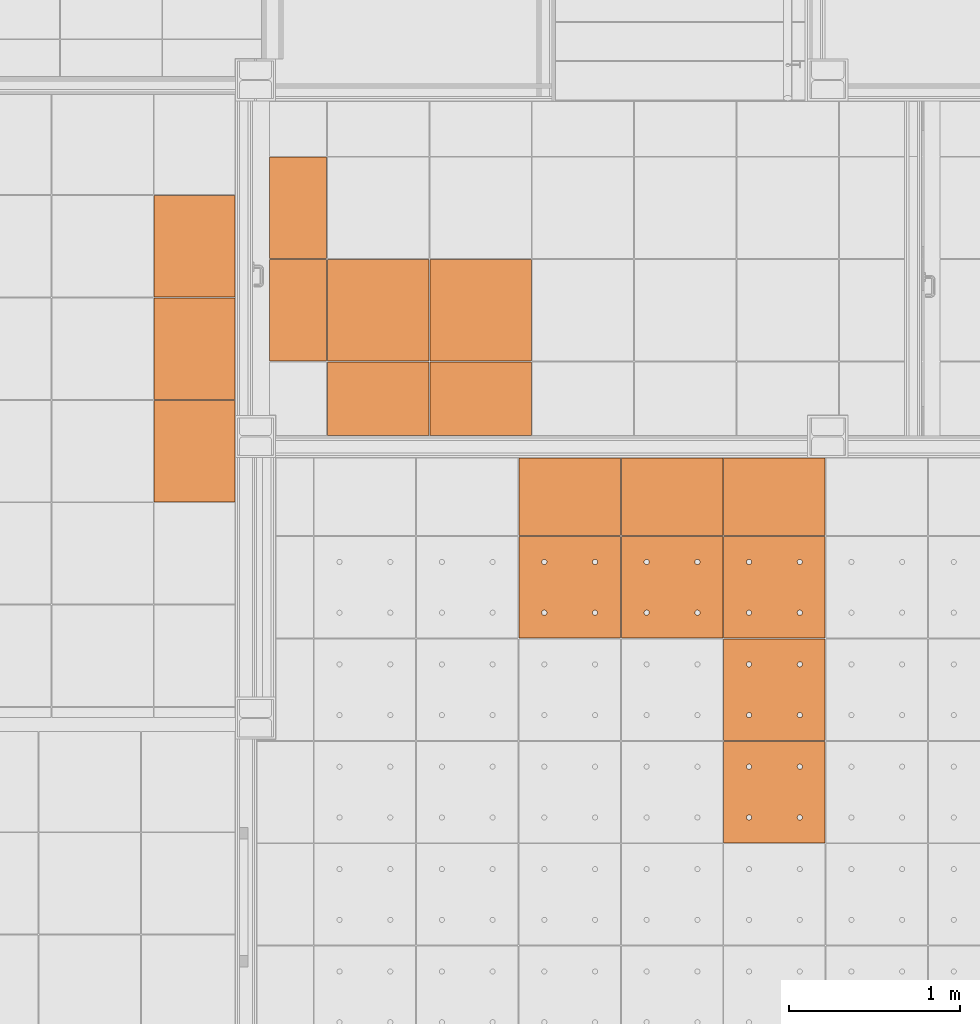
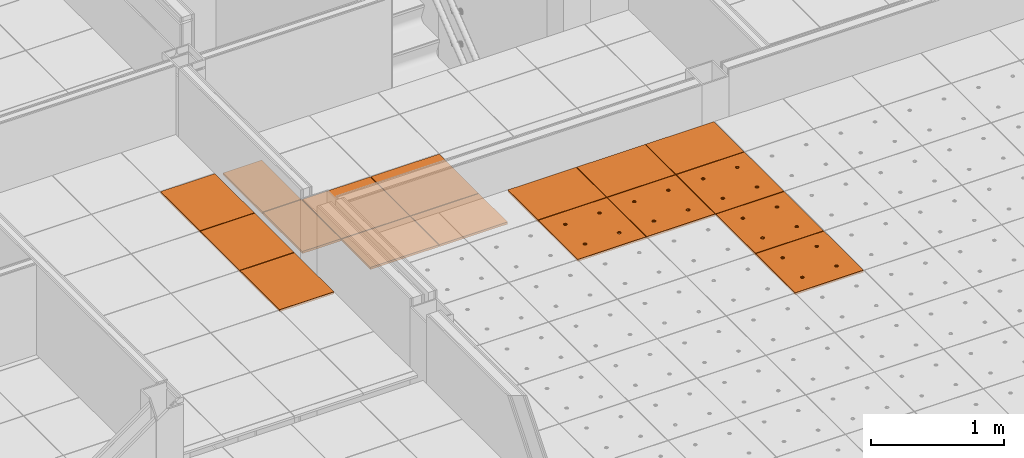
# One storey, part 259 of 338: 17 proxies, 3 elements without a shape of their own.
"""IFC2X3 building model written with IfcOpenShell, lengths in millimetres."""

from ifc_helpers import new_model, entity, si_unit, converted_unit, derived_unit, money_unit, direction, frame, origin_with_axes, place, context, subcontext, project, spatial, faceted_brep, source, transform, mapped, material, type_object, type_shapes, element, aggregate, save


model = new_model("IFC2X3")

# Units and contexts
model_context = context("Model", 3, precision=0.01, world=origin_with_axes(), true_north=direction((0.0, 1.0)))
plan_context = context("Plan", 3, precision=0.01, world=origin_with_axes(), true_north=direction((0.0, 1.0)))
body_context = subcontext(model_context, "Body", "Model", "MODEL_VIEW")
ifc_project = project(units=[si_unit("LENGTHUNIT", "METRE", prefix="MILLI"), si_unit("AREAUNIT", "SQUARE_METRE"), si_unit("VOLUMEUNIT", "CUBIC_METRE"), converted_unit("PLANEANGLEUNIT", "DEGREE", entity("IfcPlaneAngleMeasure", 0.0174532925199), si_unit("PLANEANGLEUNIT", "RADIAN"), dimensions=[0, 0, 0, 0, 0, 0, 0]), money_unit("EUR"), converted_unit("TIMEUNIT", "Year", entity("IfcTimeMeasure", 31556926.0), si_unit("TIMEUNIT", "SECOND"), dimensions=[0, 0, 1, 0, 0, 0, 0]), si_unit("MASSUNIT", "GRAM", prefix="KILO"), si_unit("THERMODYNAMICTEMPERATUREUNIT", "DEGREE_CELSIUS"), si_unit("LUMINOUSINTENSITYUNIT", "LUMEN"), si_unit("ENERGYUNIT", "JOULE", prefix="MEGA"), derived_unit("THERMALCONDUCTANCEUNIT", [(si_unit("POWERUNIT", "WATT"), 1), (si_unit("LENGTHUNIT", "METRE"), -1), (si_unit("THERMODYNAMICTEMPERATUREUNIT", "KELVIN"), -1)]), derived_unit("SPECIFICHEATCAPACITYUNIT", [(si_unit("ENERGYUNIT", "JOULE"), 1), (si_unit("MASSUNIT", "GRAM", prefix="KILO"), -1), (si_unit("THERMODYNAMICTEMPERATUREUNIT", "KELVIN"), -1)]), derived_unit("MASSDENSITYUNIT", [(si_unit("MASSUNIT", "GRAM", prefix="KILO"), 1), (si_unit("VOLUMEUNIT", "CUBIC_METRE"), -1)])], contexts=[model_context, plan_context])

# Site, building, storey
site_placement = place(None, origin_with_axes())
site = spatial("IfcSite", under=ifc_project, at=site_placement, Name="Fortuinstraat Woensdrecht", CompositionType="ELEMENT")
building_placement = place(site_placement, origin_with_axes())
building = spatial("IfcBuilding", under=site, at=building_placement, Name="IKC Fortuna", CompositionType="ELEMENT")
storey_placement = place(building_placement, origin_with_axes())
storey = spatial("IfcBuildingStorey", under=building, at=storey_placement, Name="00 begane grond", CompositionType="ELEMENT", Elevation=0.0)

# Covering, proxies
covering_type = type_object("IfcCoveringType", Name="Curtain Wall Type", PredefinedType="CEILING")
covering_1_placement = place(storey_placement, frame((28134.6600538, 19636.0305189, 2810.0), z_axis=(0.0, 0.0, 1.0), x_axis=(1.0, 0.0, 0.0)))
covering_1 = element("IfcCovering", 1, at=covering_1_placement, inside=storey, type_object=covering_type, Name="45_Plafondafwerking_P02", PredefinedType="CEILING")
ifc_material = material(Name="Gipsplaat")
building_element_proxy_type_1 = type_object("IfcBuildingElementProxyType", Name="Distinct Panel 600 x 600 x 20", PredefinedType="NOTDEFINED")
shared_shape_1 = source(origin_with_axes(), body_context, "Body", "Brep", [
    faceted_brep([(-2.49999999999, 2.5, -10.0), (-2.49999999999, 2.5, 10.0), (-597.5, 2.49999999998, 10.0), (-597.5, 2.49999999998, -10.0), (-2.50000000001, 597.5, -10.0), (-2.50000000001, 597.5, 10.0), (-597.5, 597.5, 10.0), (-597.5, 597.5, -10.0)], [[[0, 1, 2, 3]], [[4, 5, 1, 0]], [[1, 5, 6, 2]], [[3, 2, 6, 7]], [[0, 3, 7, 4]], [[7, 6, 5, 4]]]),
])
type_shapes(building_element_proxy_type_1, [shared_shape_1])
proxy_1_placement = place(covering_1_placement, frame((-1200.0, -1063.76608575, 0.0), z_axis=(0.0, 0.0, 1.0), x_axis=(1.0, 0.0, 0.0)))
proxy_1 = element("IfcBuildingElementProxy", 2, at=proxy_1_placement, type_object=building_element_proxy_type_1, material=ifc_material, Name="__Panel-D", context=body_context, shape_type="MappedRepresentation", body=[
    mapped(shared_shape_1, transform((-300.0, 300.0, 0.0), x_axis=(-1.0, 0.0, 0.0), y_axis=(0.0, -1.0, 0.0), z_axis=(0.0, 0.0, 1.0))),
])
proxy_2_placement = place(covering_1_placement, frame((-1800.0, -1063.76608575, 0.0), z_axis=(0.0, 0.0, 1.0), x_axis=(1.0, 0.0, 0.0)))
proxy_2 = element("IfcBuildingElementProxy", 3, at=proxy_2_placement, type_object=building_element_proxy_type_1, material=ifc_material, Name="__Panel-D", context=body_context, shape_type="MappedRepresentation", body=[
    mapped(shared_shape_1, transform((-300.0, 300.0, 0.0), x_axis=(-1.0, 0.0, 0.0), y_axis=(0.0, -1.0, 0.0), z_axis=(0.0, 0.0, 1.0))),
])

covering_2_placement = place(storey_placement, frame((31656.9226967, 15748.5304598, 3210.0), z_axis=(0.0, 0.0, 1.0), x_axis=(1.0, 0.0, 0.0)))
covering_2 = element("IfcCovering", 4, at=covering_2_placement, inside=storey, type_object=covering_type, Name="45_Plafondafwerking_P01", PredefinedType="CEILING")
building_element_proxy_type_2 = type_object("IfcBuildingElementProxyType", Name="Main Panel 600 x 600 x 20", PredefinedType="NOTDEFINED")
shared_shape_2 = source(origin_with_axes(), body_context, "Body", "Brep", [
    faceted_brep([(2.49999999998, 2.49999999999, -10.0), (300.0, 2.49999999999, -10.0), (300.0, 2.49999999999, 10.0), (2.49999999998, 2.49999999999, 10.0), (2.49999999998, 300.0, -10.0), (2.49999999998, 597.5, -10.0), (300.0, 597.5, -10.0), (597.5, 597.5, -10.0), (597.5, 300.0, -10.0), (597.5, 2.49999999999, -10.0), (166.25, 450.06232995, -10.0), (165.79423259, 452.64711538, -10.0), (164.896546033, 455.11348892, -10.0), (163.58421608, 457.38651108, -10.0), (161.897117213, 459.39711721, -10.0), (159.886511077, 461.08421608, -10.0), (157.613488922, 462.39654603, -10.0), (155.147115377, 463.29423259, -10.0), (152.562329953, 463.75, -10.0), (149.937670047, 463.75, -10.0), (147.352884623, 463.29423259, -10.0), (144.886511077, 462.39654603, -10.0), (142.613488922, 461.08421608, -10.0), (140.602882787, 459.39711721, -10.0), (138.91578392, 457.38651108, -10.0), (137.603453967, 455.11348892, -10.0), (136.705767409, 452.64711538, -10.0), (136.25, 450.06232995, -10.0), (136.25, 448.75, -10.0), (136.25, 447.43767005, -10.0), (136.705767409, 444.85288462, -10.0), (137.603453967, 442.38651108, -10.0), (138.91578392, 440.11348892, -10.0), (140.602882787, 438.10288279, -10.0), (142.613488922, 436.41578392, -10.0), (144.886511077, 435.10345397, -10.0), (147.352884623, 434.20576741, -10.0), (149.937670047, 433.75, -10.0), (152.562329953, 433.75, -10.0), (155.147115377, 434.20576741, -10.0), (157.613488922, 435.10345397, -10.0), (159.886511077, 436.41578392, -10.0), (161.897117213, 438.10288279, -10.0), (163.58421608, 440.11348892, -10.0), (164.896546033, 442.38651108, -10.0), (165.79423259, 444.85288462, -10.0), (166.25, 447.43767005, -10.0), (463.75, 450.06232995, -10.0), (463.29423259, 452.64711538, -10.0), (462.396546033, 455.11348892, -10.0), (461.08421608, 457.38651108, -10.0), (459.397117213, 459.39711721, -10.0), (457.386511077, 461.08421608, -10.0), (455.113488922, 462.39654603, -10.0), (452.647115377, 463.29423259, -10.0), (450.062329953, 463.75, -10.0), (447.437670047, 463.75, -10.0), (444.852884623, 463.29423259, -10.0), (442.386511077, 462.39654603, -10.0), (440.113488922, 461.08421608, -10.0), (438.102882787, 459.39711721, -10.0), (436.41578392, 457.38651108, -10.0), (435.103453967, 455.11348892, -10.0), (434.205767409, 452.64711538, -10.0), (433.75, 450.06232995, -10.0), (433.75, 448.75, -10.0), (433.75, 447.43767005, -10.0), (434.205767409, 444.85288462, -10.0), (435.103453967, 442.38651108, -10.0), (436.41578392, 440.11348892, -10.0), (438.102882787, 438.10288279, -10.0), (440.113488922, 436.41578392, -10.0), (442.386511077, 435.10345397, -10.0), (444.852884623, 434.20576741, -10.0), (447.437670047, 433.75, -10.0), (450.062329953, 433.75, -10.0), (452.647115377, 434.20576741, -10.0), (455.113488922, 435.10345397, -10.0), (457.386511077, 436.41578392, -10.0), (459.397117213, 438.10288279, -10.0), (461.08421608, 440.11348892, -10.0), (462.396546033, 442.38651108, -10.0), (463.29423259, 444.85288462, -10.0), (463.75, 447.43767005, -10.0), (463.75, 152.56232995, -10.0), (463.29423259, 155.14711538, -10.0), (462.396546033, 157.61348892, -10.0), (461.08421608, 159.88651108, -10.0), (459.397117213, 161.89711721, -10.0), (457.386511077, 163.58421608, -10.0), (455.113488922, 164.89654603, -10.0), (452.647115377, 165.79423259, -10.0), (450.062329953, 166.25, -10.0), (447.437670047, 166.25, -10.0), (444.852884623, 165.79423259, -10.0), (442.386511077, 164.89654603, -10.0), (440.113488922, 163.58421608, -10.0), (438.102882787, 161.89711721, -10.0), (436.41578392, 159.88651108, -10.0), (435.103453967, 157.61348892, -10.0), (434.205767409, 155.14711538, -10.0), (433.75, 152.56232995, -10.0), (433.75, 151.25, -10.0), (433.75, 149.93767005, -10.0), (434.205767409, 147.35288462, -10.0), (435.103453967, 144.88651108, -10.0), (436.41578392, 142.61348892, -10.0), (438.102882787, 140.60288279, -10.0), (440.113488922, 138.91578392, -10.0), (442.386511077, 137.60345397, -10.0), (444.852884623, 136.70576741, -10.0), (447.437670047, 136.25, -10.0), (450.062329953, 136.25, -10.0), (452.647115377, 136.70576741, -10.0), (455.113488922, 137.60345397, -10.0), (457.386511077, 138.91578392, -10.0), (459.397117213, 140.60288279, -10.0), (461.08421608, 142.61348892, -10.0), (462.396546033, 144.88651108, -10.0), (463.29423259, 147.35288462, -10.0), (463.75, 149.93767005, -10.0), (166.25, 152.56232995, -10.0), (165.79423259, 155.14711538, -10.0), (164.896546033, 157.61348892, -10.0), (163.58421608, 159.88651108, -10.0), (161.897117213, 161.89711721, -10.0), (159.886511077, 163.58421608, -10.0), (157.613488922, 164.89654603, -10.0), (155.147115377, 165.79423259, -10.0), (152.562329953, 166.25, -10.0), (149.937670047, 166.25, -10.0), (147.352884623, 165.79423259, -10.0), (144.886511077, 164.89654603, -10.0), (142.613488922, 163.58421608, -10.0), (140.602882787, 161.89711721, -10.0), (138.91578392, 159.88651108, -10.0), (137.603453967, 157.61348892, -10.0), (136.705767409, 155.14711538, -10.0), (136.25, 152.56232995, -10.0), (136.25, 151.25, -10.0), (136.25, 149.93767005, -10.0), (136.705767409, 147.35288462, -10.0), (137.603453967, 144.88651108, -10.0), (138.91578392, 142.61348892, -10.0), (140.602882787, 140.60288279, -10.0), (142.613488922, 138.91578392, -10.0), (144.886511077, 137.60345397, -10.0), (147.352884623, 136.70576741, -10.0), (149.937670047, 136.25, -10.0), (152.562329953, 136.25, -10.0), (155.147115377, 136.70576741, -10.0), (157.613488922, 137.60345397, -10.0), (159.886511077, 138.91578392, -10.0), (161.897117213, 140.60288279, -10.0), (163.58421608, 142.61348892, -10.0), (164.896546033, 144.88651108, -10.0), (165.79423259, 147.35288462, -10.0), (166.25, 149.93767005, -10.0), (597.5, 2.49999999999, 10.0), (597.5, 300.0, 10.0), (597.5, 597.5, 10.0), (300.0, 597.5, 10.0), (2.49999999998, 597.5, 10.0), (2.49999999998, 300.0, 10.0), (166.25, 450.06232995, 10.0), (166.25, 447.43767005, 10.0), (165.79423259, 444.85288462, 10.0), (164.896546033, 442.38651108, 10.0), (163.58421608, 440.11348892, 10.0), (161.897117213, 438.10288279, 10.0), (159.886511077, 436.41578392, 10.0), (157.613488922, 435.10345397, 10.0), (155.147115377, 434.20576741, 10.0), (152.562329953, 433.75, 10.0), (149.937670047, 433.75, 10.0), (147.352884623, 434.20576741, 10.0), (144.886511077, 435.10345397, 10.0), (142.613488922, 436.41578392, 10.0), (140.602882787, 438.10288279, 10.0), (138.91578392, 440.11348892, 10.0), (137.603453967, 442.38651108, 10.0), (136.705767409, 444.85288462, 10.0), (136.25, 447.43767005, 10.0), (136.25, 448.75, 10.0), (136.25, 450.06232995, 10.0), (136.705767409, 452.64711538, 10.0), (137.603453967, 455.11348892, 10.0), (138.91578392, 457.38651108, 10.0), (140.602882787, 459.39711721, 10.0), (142.613488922, 461.08421608, 10.0), (144.886511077, 462.39654603, 10.0), (147.352884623, 463.29423259, 10.0), (149.937670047, 463.75, 10.0), (152.562329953, 463.75, 10.0), (155.147115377, 463.29423259, 10.0), (157.613488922, 462.39654603, 10.0), (159.886511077, 461.08421608, 10.0), (161.897117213, 459.39711721, 10.0), (163.58421608, 457.38651108, 10.0), (164.896546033, 455.11348892, 10.0), (165.79423259, 452.64711538, 10.0), (463.75, 450.06232995, 10.0), (463.75, 447.43767005, 10.0), (463.29423259, 444.85288462, 10.0), (462.396546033, 442.38651108, 10.0), (461.08421608, 440.11348892, 10.0), (459.397117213, 438.10288279, 10.0), (457.386511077, 436.41578392, 10.0), (455.113488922, 435.10345397, 10.0), (452.647115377, 434.20576741, 10.0), (450.062329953, 433.75, 10.0), (447.437670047, 433.75, 10.0), (444.852884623, 434.20576741, 10.0), (442.386511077, 435.10345397, 10.0), (440.113488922, 436.41578392, 10.0), (438.102882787, 438.10288279, 10.0), (436.41578392, 440.11348892, 10.0), (435.103453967, 442.38651108, 10.0), (434.205767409, 444.85288462, 10.0), (433.75, 447.43767005, 10.0), (433.75, 448.75, 10.0), (433.75, 450.06232995, 10.0), (434.205767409, 452.64711538, 10.0), (435.103453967, 455.11348892, 10.0), (436.41578392, 457.38651108, 10.0), (438.102882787, 459.39711721, 10.0), (440.113488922, 461.08421608, 10.0), (442.386511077, 462.39654603, 10.0), (444.852884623, 463.29423259, 10.0), (447.437670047, 463.75, 10.0), (450.062329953, 463.75, 10.0), (452.647115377, 463.29423259, 10.0), (455.113488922, 462.39654603, 10.0), (457.386511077, 461.08421608, 10.0), (459.397117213, 459.39711721, 10.0), (461.08421608, 457.38651108, 10.0), (462.396546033, 455.11348892, 10.0), (463.29423259, 452.64711538, 10.0), (463.75, 152.56232995, 10.0), (463.75, 149.93767005, 10.0), (463.29423259, 147.35288462, 10.0), (462.396546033, 144.88651108, 10.0), (461.08421608, 142.61348892, 10.0), (459.397117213, 140.60288279, 10.0), (457.386511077, 138.91578392, 10.0), (455.113488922, 137.60345397, 10.0), (452.647115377, 136.70576741, 10.0), (450.062329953, 136.25, 10.0), (447.437670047, 136.25, 10.0), (444.852884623, 136.70576741, 10.0), (442.386511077, 137.60345397, 10.0), (440.113488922, 138.91578392, 10.0), (438.102882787, 140.60288279, 10.0), (436.41578392, 142.61348892, 10.0), (435.103453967, 144.88651108, 10.0), (434.205767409, 147.35288462, 10.0), (433.75, 149.93767005, 10.0), (433.75, 151.25, 10.0), (433.75, 152.56232995, 10.0), (434.205767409, 155.14711538, 10.0), (435.103453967, 157.61348892, 10.0), (436.41578392, 159.88651108, 10.0), (438.102882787, 161.89711721, 10.0), (440.113488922, 163.58421608, 10.0), (442.386511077, 164.89654603, 10.0), (444.852884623, 165.79423259, 10.0), (447.437670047, 166.25, 10.0), (450.062329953, 166.25, 10.0), (452.647115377, 165.79423259, 10.0), (455.113488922, 164.89654603, 10.0), (457.386511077, 163.58421608, 10.0), (459.397117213, 161.89711721, 10.0), (461.08421608, 159.88651108, 10.0), (462.396546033, 157.61348892, 10.0), (463.29423259, 155.14711538, 10.0), (166.25, 152.56232995, 10.0), (166.25, 149.93767005, 10.0), (165.79423259, 147.35288462, 10.0), (164.896546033, 144.88651108, 10.0), (163.58421608, 142.61348892, 10.0), (161.897117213, 140.60288279, 10.0), (159.886511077, 138.91578392, 10.0), (157.613488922, 137.60345397, 10.0), (155.147115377, 136.70576741, 10.0), (152.562329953, 136.25, 10.0), (149.937670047, 136.25, 10.0), (147.352884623, 136.70576741, 10.0), (144.886511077, 137.60345397, 10.0), (142.613488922, 138.91578392, 10.0), (140.602882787, 140.60288279, 10.0), (138.91578392, 142.61348892, 10.0), (137.603453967, 144.88651108, 10.0), (136.705767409, 147.35288462, 10.0), (136.25, 149.93767005, 10.0), (136.25, 151.25, 10.0), (136.25, 152.56232995, 10.0), (136.705767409, 155.14711538, 10.0), (137.603453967, 157.61348892, 10.0), (138.91578392, 159.88651108, 10.0), (140.602882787, 161.89711721, 10.0), (142.613488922, 163.58421608, 10.0), (144.886511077, 164.89654603, 10.0), (147.352884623, 165.79423259, 10.0), (149.937670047, 166.25, 10.0), (152.562329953, 166.25, 10.0), (155.147115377, 165.79423259, 10.0), (157.613488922, 164.89654603, 10.0), (159.886511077, 163.58421608, 10.0), (161.897117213, 161.89711721, 10.0), (163.58421608, 159.88651108, 10.0), (164.896546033, 157.61348892, 10.0), (165.79423259, 155.14711538, 10.0)], [[[0, 1, 2, 3]], [[0, 4, 5, 6, 7, 8, 9, 1], [10, 11, 12, 13, 14, 15, 16, 17, 18, 19, 20, 21, 22, 23, 24, 25, 26, 27, 28, 29, 30, 31, 32, 33, 34, 35, 36, 37, 38, 39, 40, 41, 42, 43, 44, 45, 46], [47, 48, 49, 50, 51, 52, 53, 54, 55, 56, 57, 58, 59, 60, 61, 62, 63, 64, 65, 66, 67, 68, 69, 70, 71, 72, 73, 74, 75, 76, 77, 78, 79, 80, 81, 82, 83], [84, 85, 86, 87, 88, 89, 90, 91, 92, 93, 94, 95, 96, 97, 98, 99, 100, 101, 102, 103, 104, 105, 106, 107, 108, 109, 110, 111, 112, 113, 114, 115, 116, 117, 118, 119, 120], [121, 122, 123, 124, 125, 126, 127, 128, 129, 130, 131, 132, 133, 134, 135, 136, 137, 138, 139, 140, 141, 142, 143, 144, 145, 146, 147, 148, 149, 150, 151, 152, 153, 154, 155, 156, 157]], [[1, 9, 158, 2]], [[3, 2, 158, 159, 160, 161, 162, 163], [164, 165, 166, 167, 168, 169, 170, 171, 172, 173, 174, 175, 176, 177, 178, 179, 180, 181, 182, 183, 184, 185, 186, 187, 188, 189, 190, 191, 192, 193, 194, 195, 196, 197, 198, 199, 200], [201, 202, 203, 204, 205, 206, 207, 208, 209, 210, 211, 212, 213, 214, 215, 216, 217, 218, 219, 220, 221, 222, 223, 224, 225, 226, 227, 228, 229, 230, 231, 232, 233, 234, 235, 236, 237], [238, 239, 240, 241, 242, 243, 244, 245, 246, 247, 248, 249, 250, 251, 252, 253, 254, 255, 256, 257, 258, 259, 260, 261, 262, 263, 264, 265, 266, 267, 268, 269, 270, 271, 272, 273, 274], [275, 276, 277, 278, 279, 280, 281, 282, 283, 284, 285, 286, 287, 288, 289, 290, 291, 292, 293, 294, 295, 296, 297, 298, 299, 300, 301, 302, 303, 304, 305, 306, 307, 308, 309, 310, 311]], [[4, 0, 3, 163]], [[5, 4, 163, 162]], [[6, 5, 162, 161]], [[7, 6, 161, 160]], [[8, 7, 160, 159]], [[9, 8, 159, 158]], [[11, 10, 164, 200]], [[12, 11, 200, 199]], [[13, 12, 199, 198]], [[14, 13, 198, 197]], [[15, 14, 197, 196]], [[16, 15, 196, 195]], [[17, 16, 195, 194]], [[18, 17, 194, 193]], [[19, 18, 193, 192]], [[20, 19, 192, 191]], [[21, 20, 191, 190]], [[22, 21, 190, 189]], [[23, 22, 189, 188]], [[24, 23, 188, 187]], [[25, 24, 187, 186]], [[26, 25, 186, 185]], [[27, 26, 185, 184]], [[28, 27, 184, 183]], [[29, 28, 183, 182]], [[30, 29, 182, 181]], [[31, 30, 181, 180]], [[32, 31, 180, 179]], [[33, 32, 179, 178]], [[34, 33, 178, 177]], [[35, 34, 177, 176]], [[36, 35, 176, 175]], [[37, 36, 175, 174]], [[38, 37, 174, 173]], [[39, 38, 173, 172]], [[40, 39, 172, 171]], [[41, 40, 171, 170]], [[42, 41, 170, 169]], [[43, 42, 169, 168]], [[44, 43, 168, 167]], [[45, 44, 167, 166]], [[46, 45, 166, 165]], [[10, 46, 165, 164]], [[48, 47, 201, 237]], [[49, 48, 237, 236]], [[50, 49, 236, 235]], [[51, 50, 235, 234]], [[52, 51, 234, 233]], [[53, 52, 233, 232]], [[54, 53, 232, 231]], [[55, 54, 231, 230]], [[56, 55, 230, 229]], [[57, 56, 229, 228]], [[58, 57, 228, 227]], [[59, 58, 227, 226]], [[60, 59, 226, 225]], [[61, 60, 225, 224]], [[62, 61, 224, 223]], [[63, 62, 223, 222]], [[64, 63, 222, 221]], [[65, 64, 221, 220]], [[66, 65, 220, 219]], [[67, 66, 219, 218]], [[68, 67, 218, 217]], [[69, 68, 217, 216]], [[70, 69, 216, 215]], [[71, 70, 215, 214]], [[72, 71, 214, 213]], [[73, 72, 213, 212]], [[74, 73, 212, 211]], [[75, 74, 211, 210]], [[76, 75, 210, 209]], [[77, 76, 209, 208]], [[78, 77, 208, 207]], [[79, 78, 207, 206]], [[80, 79, 206, 205]], [[81, 80, 205, 204]], [[82, 81, 204, 203]], [[83, 82, 203, 202]], [[47, 83, 202, 201]], [[85, 84, 238, 274]], [[86, 85, 274, 273]], [[87, 86, 273, 272]], [[88, 87, 272, 271]], [[89, 88, 271, 270]], [[90, 89, 270, 269]], [[91, 90, 269, 268]], [[92, 91, 268, 267]], [[93, 92, 267, 266]], [[94, 93, 266, 265]], [[95, 94, 265, 264]], [[96, 95, 264, 263]], [[97, 96, 263, 262]], [[98, 97, 262, 261]], [[99, 98, 261, 260]], [[100, 99, 260, 259]], [[101, 100, 259, 258]], [[102, 101, 258, 257]], [[103, 102, 257, 256]], [[104, 103, 256, 255]], [[105, 104, 255, 254]], [[106, 105, 254, 253]], [[107, 106, 253, 252]], [[108, 107, 252, 251]], [[109, 108, 251, 250]], [[110, 109, 250, 249]], [[111, 110, 249, 248]], [[112, 111, 248, 247]], [[113, 112, 247, 246]], [[114, 113, 246, 245]], [[115, 114, 245, 244]], [[116, 115, 244, 243]], [[117, 116, 243, 242]], [[118, 117, 242, 241]], [[119, 118, 241, 240]], [[120, 119, 240, 239]], [[84, 120, 239, 238]], [[122, 121, 275, 311]], [[123, 122, 311, 310]], [[124, 123, 310, 309]], [[125, 124, 309, 308]], [[126, 125, 308, 307]], [[127, 126, 307, 306]], [[128, 127, 306, 305]], [[129, 128, 305, 304]], [[130, 129, 304, 303]], [[131, 130, 303, 302]], [[132, 131, 302, 301]], [[133, 132, 301, 300]], [[134, 133, 300, 299]], [[135, 134, 299, 298]], [[136, 135, 298, 297]], [[137, 136, 297, 296]], [[138, 137, 296, 295]], [[139, 138, 295, 294]], [[140, 139, 294, 293]], [[141, 140, 293, 292]], [[142, 141, 292, 291]], [[143, 142, 291, 290]], [[144, 143, 290, 289]], [[145, 144, 289, 288]], [[146, 145, 288, 287]], [[147, 146, 287, 286]], [[148, 147, 286, 285]], [[149, 148, 285, 284]], [[150, 149, 284, 283]], [[151, 150, 283, 282]], [[152, 151, 282, 281]], [[153, 152, 281, 280]], [[154, 153, 280, 279]], [[155, 154, 279, 278]], [[156, 155, 278, 277]], [[157, 156, 277, 276]], [[121, 157, 276, 275]]]),
])
type_shapes(building_element_proxy_type_2, [shared_shape_2])
proxy_3_placement = place(covering_2_placement, frame((-3000.0, 0.0, 1.94511073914e-10), z_axis=(0.0, 0.0, 1.0), x_axis=(1.0, 0.0, 0.0)))
proxy_3 = element("IfcBuildingElementProxy", 5, at=proxy_3_placement, type_object=building_element_proxy_type_2, material=ifc_material, Name="__600x632 Rockfon Krios", context=body_context, shape_type="MappedRepresentation", body=[
    mapped(shared_shape_2, transform((300.0, 300.0, 0.0), x_axis=(-1.0, 0.0, 0.0), y_axis=(0.0, -1.0, 0.0), z_axis=(0.0, 0.0, 1.0))),
])
proxy_4_placement = place(covering_2_placement, frame((-3000.0, 1200.0, 1.94511073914e-10), z_axis=(0.0, 0.0, 1.0), x_axis=(1.0, 0.0, 0.0)))
proxy_4 = element("IfcBuildingElementProxy", 6, at=proxy_4_placement, type_object=building_element_proxy_type_2, material=ifc_material, Name="__600x651 Rockfon Krios", context=body_context, shape_type="MappedRepresentation", body=[
    mapped(shared_shape_2, transform((300.0, 300.0, 0.0), x_axis=(-1.0, 0.0, 0.0), y_axis=(0.0, -1.0, 0.0), z_axis=(0.0, 0.0, 1.0))),
])
proxy_5_placement = place(covering_2_placement, frame((-3000.0, 600.0, 1.94511073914e-10), z_axis=(0.0, 0.0, 1.0), x_axis=(1.0, 0.0, 0.0)))
proxy_5 = element("IfcBuildingElementProxy", 7, at=proxy_5_placement, type_object=building_element_proxy_type_2, material=ifc_material, Name="__600x652 Rockfon Krios", context=body_context, shape_type="MappedRepresentation", body=[
    mapped(shared_shape_2, transform((300.0, 300.0, 0.0), x_axis=(-1.0, 0.0, 0.0), y_axis=(0.0, -1.0, 0.0), z_axis=(0.0, 0.0, 1.0))),
])
proxy_6_placement = place(covering_2_placement, frame((-3600.0, 1200.0, 2.14495088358e-10), z_axis=(0.0, 0.0, 1.0), x_axis=(1.0, 0.0, 0.0)))
proxy_6 = element("IfcBuildingElementProxy", 8, at=proxy_6_placement, type_object=building_element_proxy_type_2, material=ifc_material, Name="__600x655 Rockfon Krios", context=body_context, shape_type="MappedRepresentation", body=[
    mapped(shared_shape_2, transform((300.0, 300.0, 0.0), x_axis=(-1.0, 0.0, 0.0), y_axis=(0.0, -1.0, 0.0), z_axis=(0.0, 0.0, 1.0))),
])
proxy_7_placement = place(covering_2_placement, frame((-4200.0, 1200.0, 2.34035013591e-10), z_axis=(0.0, 0.0, 1.0), x_axis=(1.0, 0.0, 0.0)))
proxy_7 = element("IfcBuildingElementProxy", 9, at=proxy_7_placement, type_object=building_element_proxy_type_2, material=ifc_material, Name="__600x659 Rockfon Krios", context=body_context, shape_type="MappedRepresentation", body=[
    mapped(shared_shape_2, transform((300.0, 300.0, 0.0), x_axis=(-1.0, 0.0, 0.0), y_axis=(0.0, -1.0, 0.0), z_axis=(0.0, 0.0, 1.0))),
])

# Proxy
building_element_proxy_type_3 = type_object("IfcBuildingElementProxyType", Name="Distinct Panel 600 x 437 x 20", PredefinedType="NOTDEFINED")
shared_shape_3 = source(origin_with_axes(), body_context, "Body", "Brep", [
    faceted_brep([(-2.49999999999, 2.5000033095, -10.0), (-2.49999999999, 2.5000033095, 10.0), (-597.5, 2.50000330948, 10.0), (-597.5, 2.50000330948, -10.0), (-2.50000000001, 434.967816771, -10.0), (-2.50000000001, 434.967816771, 10.0), (-597.5, 434.967798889, 10.0), (-597.5, 434.967798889, -10.0)], [[[0, 1, 2, 3]], [[4, 5, 1, 0]], [[1, 5, 6, 2]], [[3, 2, 6, 7]], [[0, 3, 7, 4]], [[7, 6, 5, 4]]]),
])
proxy_8_placement = place(covering_1_placement, frame((-1800.0, -1582.49998922, 0.0), z_axis=(0.0, 0.0, 1.0), x_axis=(1.0, 0.0, 0.0)))
proxy_8 = element("IfcBuildingElementProxy", 10, at=proxy_8_placement, type_object=building_element_proxy_type_3, material=ifc_material, Name="__Panel-D", context=body_context, shape_type="MappedRepresentation", body=[
    mapped(shared_shape_3, transform((-300.0, 218.733903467, 0.0), x_axis=(-1.0, 0.0, 0.0), y_axis=(0.0, -1.0, 0.0), z_axis=(0.0, 0.0, 1.0))),
])

building_element_proxy_type_4 = type_object("IfcBuildingElementProxyType", Name="Distinct Panel 340 x 600 x 20", PredefinedType="NOTDEFINED")
shared_shape_4 = source(origin_with_axes(), body_context, "Body", "Brep", [
    faceted_brep([(-262.258296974, 2.5, -10.0), (-262.258296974, 2.5, 10.0), (-597.5, 2.49999999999, 10.0), (-597.5, 2.49999999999, -10.0), (-262.258296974, 597.5, -10.0), (-262.258296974, 597.5, 10.0), (-597.5, 597.5, 10.0), (-597.5, 597.5, -10.0)], [[[0, 1, 2, 3]], [[4, 5, 1, 0]], [[1, 5, 6, 2]], [[3, 2, 6, 7]], [[0, 3, 7, 4]], [[7, 6, 5, 4]]]),
])
type_shapes(building_element_proxy_type_4, [shared_shape_4])
proxy_9_placement = place(covering_1_placement, frame((-2270.12085273, -1063.76608575, 0.0), z_axis=(0.0, 0.0, 1.0), x_axis=(1.0, 0.0, 0.0)))
proxy_9 = element("IfcBuildingElementProxy", 11, at=proxy_9_placement, type_object=building_element_proxy_type_4, material=ifc_material, Name="__Panel-D", context=body_context, shape_type="MappedRepresentation", body=[
    mapped(shared_shape_4, transform((-429.879147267, 300.0, 0.0), x_axis=(-1.0, 0.0, 0.0), y_axis=(0.0, -1.0, 0.0), z_axis=(0.0, 0.0, 1.0))),
])

proxy_10_placement = place(covering_1_placement, frame((-2270.12085273, -463.766085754, 0.0), z_axis=(0.0, 0.0, 1.0), x_axis=(1.0, 0.0, 0.0)))
proxy_10 = element("IfcBuildingElementProxy", 12, at=proxy_10_placement, type_object=building_element_proxy_type_4, material=ifc_material, Name="__Panel-D", context=body_context, shape_type="MappedRepresentation", body=[
    mapped(shared_shape_4, transform((-429.879147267, 300.0, 0.0), x_axis=(-1.0, 0.0, 0.0), y_axis=(0.0, -1.0, 0.0), z_axis=(0.0, 0.0, 1.0))),
])

shared_shape_5 = source(origin_with_axes(), body_context, "Body", "Brep", [
    faceted_brep([(-2.49999999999, 2.50000151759, -10.0), (-2.49999999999, 2.50000151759, 10.0), (-597.5, 2.50000151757, 10.0), (-597.5, 2.50000151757, -10.0), (-2.50000000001, 434.967797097, -10.0), (-2.50000000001, 434.967797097, 10.0), (-597.5, 434.967797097, 10.0), (-597.5, 434.967797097, -10.0)], [[[0, 1, 2, 3]], [[4, 5, 1, 0]], [[1, 5, 6, 2]], [[3, 2, 6, 7]], [[0, 3, 7, 4]], [[7, 6, 5, 4]]]),
])
type_shapes(building_element_proxy_type_3, [shared_shape_3, shared_shape_5])
proxy_11_placement = place(covering_1_placement, frame((-1200.0, -1582.4999843, 0.0), z_axis=(0.0, 0.0, 1.0), x_axis=(1.0, 0.0, 0.0)))
proxy_11 = element("IfcBuildingElementProxy", 13, at=proxy_11_placement, type_object=building_element_proxy_type_3, material=ifc_material, Name="__Panel-D", context=body_context, shape_type="MappedRepresentation", body=[
    mapped(shared_shape_5, transform((-300.0, 218.733898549, 0.0), x_axis=(-1.0, 0.0, 0.0), y_axis=(0.0, -1.0, 0.0), z_axis=(0.0, 0.0, 1.0))),
])

aggregate(covering_1, [proxy_8, proxy_9, proxy_11, proxy_1, proxy_10, proxy_2])

building_element_proxy_type_5 = type_object("IfcBuildingElementProxyType", Name="600 x 461 x 20", PredefinedType="NOTDEFINED")
shared_shape_6 = source(origin_with_axes(), body_context, "Body", "Brep", [
    faceted_brep([(2.5, 141.233853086, -10.0), (597.5, 141.233853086, -10.0), (597.5, 141.233853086, 10.0), (2.5, 141.233853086, 10.0), (2.50000000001, 597.5, -10.0), (597.5, 597.5, -10.0), (597.5, 597.5, 10.0), (2.50000000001, 597.5, 10.0)], [[[0, 1, 2, 3]], [[0, 4, 5, 1]], [[1, 5, 6, 2]], [[3, 2, 6, 7]], [[4, 0, 3, 7]], [[5, 4, 7, 6]]]),
])
type_shapes(building_element_proxy_type_5, [shared_shape_6])
proxy_12_placement = place(covering_2_placement, frame((-3000.0, 1730.63307755, 1.94511073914e-10), z_axis=(0.0, 0.0, 1.0), x_axis=(1.0, 0.0, 0.0)))
proxy_12 = element("IfcBuildingElementProxy", 14, at=proxy_12_placement, type_object=building_element_proxy_type_5, material=ifc_material, Name="__600x625 Rockfon Krios", context=body_context, shape_type="MappedRepresentation", body=[
    mapped(shared_shape_6, transform((300.0, 369.366938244, 0.0), x_axis=(-1.0, 0.0, 0.0), y_axis=(0.0, -1.0, 0.0), z_axis=(0.0, 0.0, 1.0))),
])

proxy_13_placement = place(covering_2_placement, frame((-3600.0, 1730.63307755, 2.14495088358e-10), z_axis=(0.0, 0.0, 1.0), x_axis=(1.0, 0.0, 0.0)))
proxy_13 = element("IfcBuildingElementProxy", 15, at=proxy_13_placement, type_object=building_element_proxy_type_5, material=ifc_material, Name="__600x688 Rockfon Krios", context=body_context, shape_type="MappedRepresentation", body=[
    mapped(shared_shape_6, transform((300.0, 369.366938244, 0.0), x_axis=(-1.0, 0.0, 0.0), y_axis=(0.0, -1.0, 0.0), z_axis=(0.0, 0.0, 1.0))),
])

proxy_14_placement = place(covering_2_placement, frame((-4200.0, 1730.63307755, 2.34035013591e-10), z_axis=(0.0, 0.0, 1.0), x_axis=(1.0, 0.0, 0.0)))
proxy_14 = element("IfcBuildingElementProxy", 16, at=proxy_14_placement, type_object=building_element_proxy_type_5, material=ifc_material, Name="__600x691 Rockfon Krios", context=body_context, shape_type="MappedRepresentation", body=[
    mapped(shared_shape_6, transform((300.0, 369.366938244, 0.0), x_axis=(-1.0, 0.0, 0.0), y_axis=(0.0, -1.0, 0.0), z_axis=(0.0, 0.0, 1.0))),
])

aggregate(covering_2, [proxy_12, proxy_3, proxy_4, proxy_5, proxy_6, proxy_7, proxy_13, proxy_14])

# Covering, proxies
covering_3_placement = place(storey_placement, frame((25258.7056243, 17147.3582181, 3010.0), z_axis=(0.0, 0.0, 1.0), x_axis=(1.0, 0.0, 0.0)))
covering_3 = element("IfcCovering", 17, at=covering_3_placement, inside=storey, type_object=covering_type, Name="45_Plafondafwerking_P04", PredefinedType="CEILING")
building_element_proxy_type_6 = type_object("IfcBuildingElementProxyType", Name="Distinct Panel 478 x 600 x 20", PredefinedType="NOTDEFINED")
shared_shape_7 = source(origin_with_axes(), body_context, "Body", "Brep", [
    faceted_brep([(-2.50000397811, 2.5, -10.0), (-2.50000397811, 2.5, 10.0), (-475.958688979, 2.49999999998, 10.0), (-475.958688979, 2.49999999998, -10.0), (-2.50000397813, 597.5, -10.0), (-2.50000397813, 597.5, 10.0), (-475.958688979, 597.5, 10.0), (-475.958688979, 597.5, -10.0)], [[[0, 1, 2, 3]], [[4, 5, 1, 0]], [[1, 5, 6, 2]], [[3, 2, 6, 7]], [[0, 3, 7, 4]], [[7, 6, 5, 4]]]),
])
proxy_15_placement = place(covering_3_placement, frame((0.0, 1800.0, 0.0), z_axis=(0.0, 0.0, 1.0), x_axis=(1.0, 0.0, 0.0)))
proxy_15 = element("IfcBuildingElementProxy", 18, at=proxy_15_placement, type_object=building_element_proxy_type_6, material=ifc_material, Name="__Panel-D", context=body_context, shape_type="MappedRepresentation", body=[
    mapped(shared_shape_7, transform((-239.22934449, 300.0, 0.0), x_axis=(-1.0, 0.0, 0.0), y_axis=(0.0, -1.0, 0.0), z_axis=(0.0, 0.0, 1.0))),
])
shared_shape_8 = source(origin_with_axes(), body_context, "Body", "Brep", [
    faceted_brep([(-2.5000039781, 2.5, -10.0), (-2.5000039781, 2.5, 10.0), (-475.958688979, 2.49999999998, 10.0), (-475.958688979, 2.49999999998, -10.0), (-2.50000397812, 597.5, -10.0), (-2.50000397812, 597.5, 10.0), (-475.958688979, 597.5, 10.0), (-475.958688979, 597.5, -10.0)], [[[0, 1, 2, 3]], [[4, 5, 1, 0]], [[1, 5, 6, 2]], [[3, 2, 6, 7]], [[0, 3, 7, 4]], [[7, 6, 5, 4]]]),
])
type_shapes(building_element_proxy_type_6, [shared_shape_7, shared_shape_8])
proxy_16_placement = place(covering_3_placement, frame((0.0, 1200.0, 0.0), z_axis=(0.0, 0.0, 1.0), x_axis=(1.0, 0.0, 0.0)))
proxy_16 = element("IfcBuildingElementProxy", 19, at=proxy_16_placement, type_object=building_element_proxy_type_6, material=ifc_material, Name="__Panel-D", context=body_context, shape_type="MappedRepresentation", body=[
    mapped(shared_shape_8, transform((-239.22934449, 300.0, 0.0), x_axis=(-1.0, 0.0, 0.0), y_axis=(0.0, -1.0, 0.0), z_axis=(0.0, 0.0, 1.0))),
])
proxy_17_placement = place(covering_3_placement, frame((0.0, 600.0, 0.0), z_axis=(0.0, 0.0, 1.0), x_axis=(1.0, 0.0, 0.0)))
proxy_17 = element("IfcBuildingElementProxy", 20, at=proxy_17_placement, type_object=building_element_proxy_type_6, material=ifc_material, Name="__Panel-D", context=body_context, shape_type="MappedRepresentation", body=[
    mapped(shared_shape_8, transform((-239.22934449, 300.0, 0.0), x_axis=(-1.0, 0.0, 0.0), y_axis=(0.0, -1.0, 0.0), z_axis=(0.0, 0.0, 1.0))),
])
aggregate(covering_3, [proxy_16, proxy_15, proxy_17])

save(model, "model.ifc")
